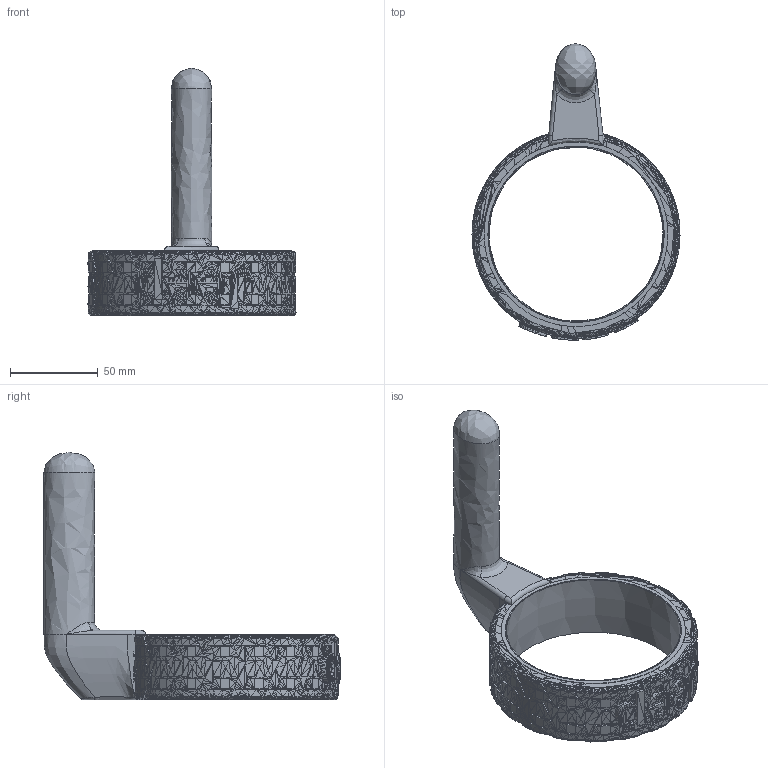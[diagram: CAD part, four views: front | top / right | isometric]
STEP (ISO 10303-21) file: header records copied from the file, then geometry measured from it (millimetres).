
FILE_DESCRIPTION(/* description */ ('Unknown'),/* implementation_level */ '2;1');
FILE_NAME(/* name */ 'JeepYeti30oz',/* time_stamp */ '2018-01-21T20:10:01-07:00',/* author */ ('Unknown'),/* organization */ ('Unknown'),/* preprocessor_version */ 'ST-DEVELOPER v16.7',/* originating_system */ 'DEX',/* authorisation */ $);
FILE_SCHEMA (('AUTOMOTIVE_DESIGN {1 0 10303 214 3 1 1}'));
Length unit declared in the file: millimetre
Products named in the file (1): JeepYeti30oz
Bounding box: 118.4 x 168.5 x 141.06 mm (x, y, z)
Volume: 199773.3 mm3; surface area: 46434.2 mm2
Topology: 1 solids, 1 shells, 7124 faces, 11821 edges, 4695 vertices
Faces by surface type: plane 7080, cylinder 21, bspline 21, cone 1, torus 1
Entity records: 150665 total; most frequent: DIRECTION 25990, CARTESIAN_POINT 25393, ORIENTED_EDGE 23622, EDGE_CURVE 11811, LINE 11638, VECTOR 11638, AXIS2_PLACEMENT_3D 7176, EDGE_LOOP 7129
